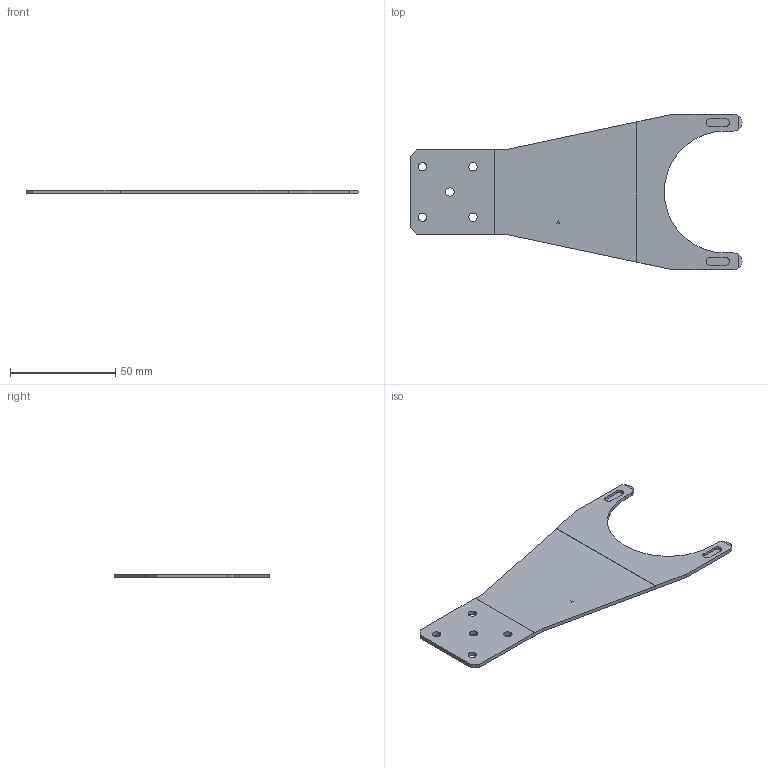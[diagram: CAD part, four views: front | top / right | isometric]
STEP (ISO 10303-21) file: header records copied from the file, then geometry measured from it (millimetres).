
FILE_DESCRIPTION(('FreeCAD Model'),'2;1');
FILE_NAME('Open CASCADE Shape Model','2024-08-28T14:40:44',(''),(''), 'Open CASCADE STEP processor 7.6','FreeCAD','Unknown');
FILE_SCHEMA(('AUTOMOTIVE_DESIGN { 1 0 10303 214 1 1 1 1 }'));
Length unit declared in the file: millimetre
Products named in the file (26): _; NA2403252; NA2403251; ______2; Path019; Path010; Path011; Path012; Path013; Path014; Path015; Path016; Path017; Path018; NA2403253; ______2001; Path020; Path021; Path022; Path023; Path024; Path025; Path026; Path027; Path028; Path029
Assembly tree (25 placements, depth 4):
  _
    NA2403252
      NA2403251
      ______2
        Path019
        Path010
        Path011
        Path012
        Path013
        Path014
        Path015
        Path016
        Path017
        Path018
    NA2403253
    ______2001
      Path020
      Path021
      Path022
      Path023
      Path024
      Path025
      Path026
      Path027
      Path028
      Path029
Bounding box: 158 x 74 x 1.9 mm (x, y, z)
Surface area: 29875.9 mm2
Topology: 2 solids, 4 shells, 98 faces, 480 edges, 1848 vertices
Faces by surface type: plane 54, cylinder 42, bspline 2
Entity records: 12548 total; most frequent: CARTESIAN_POINT 4166, DIRECTION 1054, LINE 576, VECTOR 576, ORIENTED_EDGE 536, PCURVE 536, DEFINITIONAL_REPRESENTATION 536, EDGE_CURVE 272
